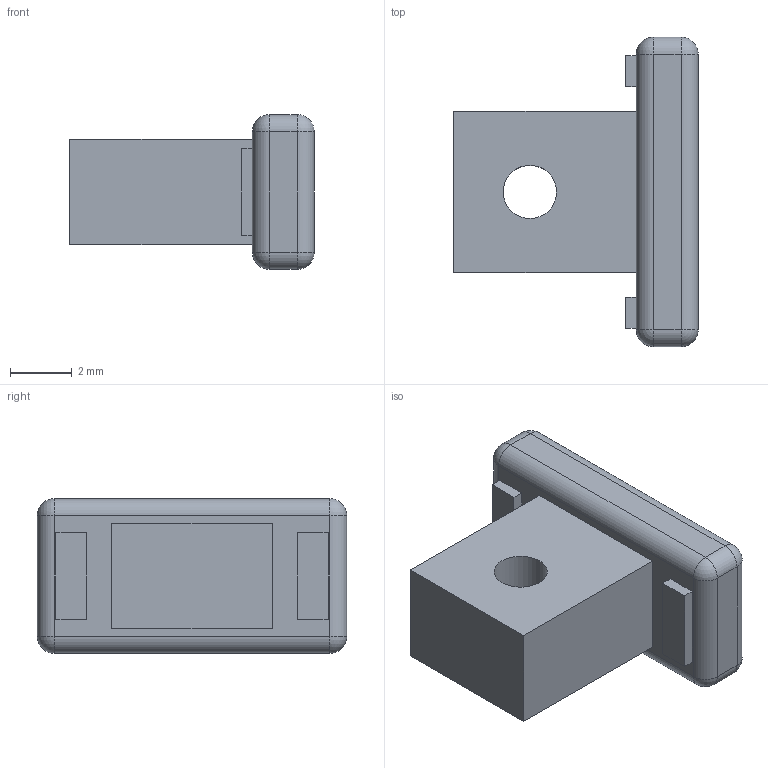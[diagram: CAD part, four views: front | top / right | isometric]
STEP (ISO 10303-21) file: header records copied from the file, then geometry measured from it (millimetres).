
FILE_DESCRIPTION(('Open CASCADE Model'),'2;1');
FILE_NAME('Open CASCADE Shape Model','2026-10-16T20:12:46',('Author'),( 'Open CASCADE'),'Open CASCADE STEP processor 7.9','Open CASCADE 7.9' ,'Unknown');
FILE_SCHEMA(('AUTOMOTIVE_DESIGN { 1 0 10303 214 1 1 1 1 }'));
Length unit declared in the file: millimetre
Products named in the file (1): Open CASCADE STEP translator 7.9 3
Bounding box: 7.9 x 10 x 5 mm (x, y, z)
Volume: 194.2 mm3; surface area: 264.1 mm2
Topology: 1 solids, 1 shells, 42 faces, 95 edges, 50 vertices
Faces by surface type: plane 21, cylinder 13, sphere 8
Full cylindrical faces by diameter (mm): 1.72 x1
Entity records: 2236 total; most frequent: DIRECTION 371, CARTESIAN_POINT 366, LINE 233, VECTOR 233, ORIENTED_EDGE 174, PCURVE 174, DEFINITIONAL_REPRESENTATION 174, EDGE_CURVE 87
